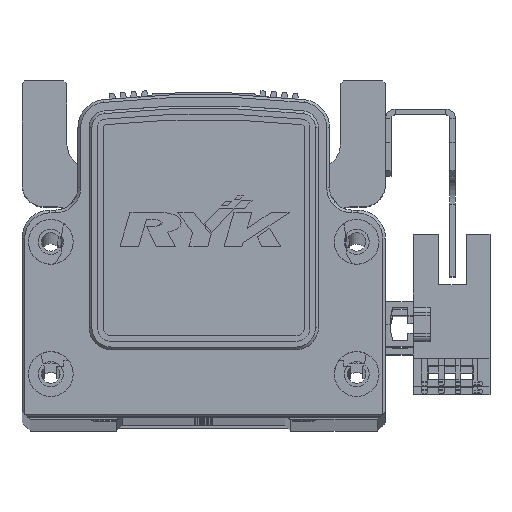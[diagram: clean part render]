
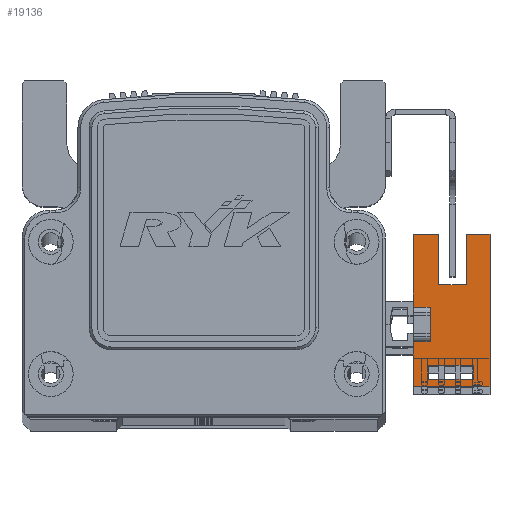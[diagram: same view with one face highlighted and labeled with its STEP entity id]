
A CAD part, top view. The second image highlights one B-rep face of the part: STEP entity #19136.
In plain terms, the highlighted planar face has unit normal (0, 0, 1) as drawn and (1, 0, 0) by its records, which use the part's own axes.
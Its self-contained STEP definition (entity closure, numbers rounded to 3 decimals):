
#1435 = ORIENTED_EDGE ( 'NONE', *, *, #11914, .F. ) ;
#1544 = FACE_OUTER_BOUND ( 'NONE', #20921, .T. ) ;
#1616 = FACE_BOUND ( 'NONE', #20941, .T. ) ;
#3279 = PLANE ( 'NONE',  #26310 ) ;
#3297 = DIRECTION ( 'NONE',  ( 0., 1., 0. ) ) ;
#3307 = CARTESIAN_POINT ( 'NONE',  ( 3.2, 16.1, -10.7 ) ) ;
#3317 = DIRECTION ( 'NONE',  ( 1., 0., 0. ) ) ;
#11870 = EDGE_CURVE ( 'NONE', #15748, #15707, #27808, .T. ) ;
#11875 = EDGE_CURVE ( 'NONE', #15727, #15717, #27785, .T. ) ;
#11878 = EDGE_CURVE ( 'NONE', #15709, #15714, #27820, .T. ) ;
#11913 = EDGE_CURVE ( 'NONE', #15874, #15748, #27724, .T. ) ;
#11914 = EDGE_CURVE ( 'NONE', #15815, #15801, #27067, .T. ) ;
#11916 = EDGE_CURVE ( 'NONE', #15707, #15780, #27281, .T. ) ;
#11920 = EDGE_CURVE ( 'NONE', #15771, #15787, #29962, .T. ) ;
#11930 = EDGE_CURVE ( 'NONE', #15801, #15771, #29954, .T. ) ;
#11933 = EDGE_CURVE ( 'NONE', #15714, #15813, #29992, .T. ) ;
#11934 = EDGE_CURVE ( 'NONE', #15763, #15717, #29990, .T. ) ;
#11947 = EDGE_CURVE ( 'NONE', #15787, #15815, #29945, .T. ) ;
#11948 = EDGE_CURVE ( 'NONE', #15790, #15763, #29969, .T. ) ;
#12010 = EDGE_CURVE ( 'NONE', #15813, #15769, #30107, .T. ) ;
#12013 = EDGE_CURVE ( 'NONE', #15874, #15709, #30088, .T. ) ;
#12018 = EDGE_CURVE ( 'NONE', #15769, #15727, #30117, .T. ) ;
#12023 = EDGE_CURVE ( 'NONE', #15780, #15790, #30190, .T. ) ;
#15707 = VERTEX_POINT ( 'NONE', #39078 ) ;
#15709 = VERTEX_POINT ( 'NONE', #39036 ) ;
#15714 = VERTEX_POINT ( 'NONE', #39075 ) ;
#15717 = VERTEX_POINT ( 'NONE', #39037 ) ;
#15727 = VERTEX_POINT ( 'NONE', #39042 ) ;
#15748 = VERTEX_POINT ( 'NONE', #39063 ) ;
#15763 = VERTEX_POINT ( 'NONE', #39201 ) ;
#15769 = VERTEX_POINT ( 'NONE', #39183 ) ;
#15771 = VERTEX_POINT ( 'NONE', #39139 ) ;
#15780 = VERTEX_POINT ( 'NONE', #39170 ) ;
#15787 = VERTEX_POINT ( 'NONE', #39150 ) ;
#15790 = VERTEX_POINT ( 'NONE', #39204 ) ;
#15801 = VERTEX_POINT ( 'NONE', #39181 ) ;
#15813 = VERTEX_POINT ( 'NONE', #39177 ) ;
#15815 = VERTEX_POINT ( 'NONE', #39156 ) ;
#15874 = VERTEX_POINT ( 'NONE', #39213 ) ;
#19136 = ADVANCED_FACE ( 'NONE', ( #1544, #1616 ), #3279, .T. ) ;
#20921 = EDGE_LOOP ( 'NONE', ( #44493, #44475, #44468, #44481, #44655, #44523, #44542, #44551, #44547, #44549, #44454, #44545 ) ) ;
#20941 = EDGE_LOOP ( 'NONE', ( #44452, #44463, #44502, #1435 ) ) ;
#26310 = AXIS2_PLACEMENT_3D ( 'NONE', #3307, #3317, #3297 ) ;
#27067 = LINE ( 'NONE', #29820, #27573 ) ;
#27281 = LINE ( 'NONE', #29841, #29988 ) ;
#27573 = VECTOR ( 'NONE', #29843, 1000. ) ;
#27724 = LINE ( 'NONE', #29817, #27758 ) ;
#27758 = VECTOR ( 'NONE', #29846, 1000. ) ;
#27773 = VECTOR ( 'NONE', #29741, 1000. ) ;
#27779 = VECTOR ( 'NONE', #29724, 1000. ) ;
#27785 = LINE ( 'NONE', #29746, #27773 ) ;
#27788 = VECTOR ( 'NONE', #29755, 1000. ) ;
#27808 = LINE ( 'NONE', #29744, #27779 ) ;
#27820 = LINE ( 'NONE', #29752, #27788 ) ;
#29724 = DIRECTION ( 'NONE',  ( 0., 0., 1. ) ) ;
#29741 = DIRECTION ( 'NONE',  ( 0., 1., 0. ) ) ;
#29744 = CARTESIAN_POINT ( 'NONE',  ( 3.2, 16.1, -10.7 ) ) ;
#29746 = CARTESIAN_POINT ( 'NONE',  ( 3.2, 16.1, 3. ) ) ;
#29752 = CARTESIAN_POINT ( 'NONE',  ( 3.2, 16.1, 3. ) ) ;
#29755 = DIRECTION ( 'NONE',  ( 0., 1., 0. ) ) ;
#29817 = CARTESIAN_POINT ( 'NONE',  ( 3.2, 16.1, -10.7 ) ) ;
#29820 = CARTESIAN_POINT ( 'NONE',  ( 3.2, -9.83, -10.7 ) ) ;
#29824 = CARTESIAN_POINT ( 'NONE',  ( 3.2, -7.33, -10.7 ) ) ;
#29832 = DIRECTION ( 'NONE',  ( 0., -1., 0. ) ) ;
#29839 = DIRECTION ( 'NONE',  ( 0., 0., 1. ) ) ;
#29841 = CARTESIAN_POINT ( 'NONE',  ( 3.2, 25.1, -6.5 ) ) ;
#29843 = DIRECTION ( 'NONE',  ( 0., 0., -1. ) ) ;
#29846 = DIRECTION ( 'NONE',  ( 0., 1., 0. ) ) ;
#29848 = CARTESIAN_POINT ( 'NONE',  ( 3.2, 16.1, -7.7 ) ) ;
#29849 = DIRECTION ( 'NONE',  ( 0., 0., 1. ) ) ;
#29863 = DIRECTION ( 'NONE',  ( 0., 0., -1. ) ) ;
#29865 = CARTESIAN_POINT ( 'NONE',  ( 3.2, 16.1, -10.7 ) ) ;
#29869 = CARTESIAN_POINT ( 'NONE',  ( 3.2, -3.1, 3. ) ) ;
#29873 = DIRECTION ( 'NONE',  ( 0., 1., 0. ) ) ;
#29897 = CARTESIAN_POINT ( 'NONE',  ( 3.2, 16.1, 0.3 ) ) ;
#29905 = DIRECTION ( 'NONE',  ( 0., -1., 0. ) ) ;
#29907 = DIRECTION ( 'NONE',  ( 0., 1., 0. ) ) ;
#29915 = CARTESIAN_POINT ( 'NONE',  ( 3.2, 25.1, -1.5 ) ) ;
#29943 = VECTOR ( 'NONE', #29907, 1000. ) ;
#29945 = LINE ( 'NONE', #29897, #29989 ) ;
#29946 = VECTOR ( 'NONE', #29849, 1000. ) ;
#29954 = LINE ( 'NONE', #29848, #29972 ) ;
#29962 = LINE ( 'NONE', #29824, #29980 ) ;
#29969 = LINE ( 'NONE', #29915, #29943 ) ;
#29972 = VECTOR ( 'NONE', #29873, 1000. ) ;
#29973 = VECTOR ( 'NONE', #29863, 1000. ) ;
#29980 = VECTOR ( 'NONE', #29839, 1000. ) ;
#29988 = VECTOR ( 'NONE', #29832, 1000. ) ;
#29989 = VECTOR ( 'NONE', #29905, 1000. ) ;
#29990 = LINE ( 'NONE', #29865, #29946 ) ;
#29992 = LINE ( 'NONE', #29869, #29973 ) ;
#30088 = LINE ( 'NONE', #31269, #30116 ) ;
#30107 = LINE ( 'NONE', #31281, #30122 ) ;
#30116 = VECTOR ( 'NONE', #31270, 1000. ) ;
#30117 = LINE ( 'NONE', #31286, #30123 ) ;
#30122 = VECTOR ( 'NONE', #31273, 1000. ) ;
#30123 = VECTOR ( 'NONE', #31272, 1000. ) ;
#30190 = LINE ( 'NONE', #31333, #30194 ) ;
#30194 = VECTOR ( 'NONE', #31319, 1000. ) ;
#31269 = CARTESIAN_POINT ( 'NONE',  ( 3.2, -11.1, 3. ) ) ;
#31270 = DIRECTION ( 'NONE',  ( 0., 0., 1. ) ) ;
#31272 = DIRECTION ( 'NONE',  ( 0., 0., 1. ) ) ;
#31273 = DIRECTION ( 'NONE',  ( 0., 1., 0. ) ) ;
#31281 = CARTESIAN_POINT ( 'NONE',  ( 3.2, 0., 0. ) ) ;
#31286 = CARTESIAN_POINT ( 'NONE',  ( 3.2, 3.1, 3. ) ) ;
#31319 = DIRECTION ( 'NONE',  ( 0., 0., 1. ) ) ;
#31333 = CARTESIAN_POINT ( 'NONE',  ( 3.2, 7.1, -6.5 ) ) ;
#39036 = CARTESIAN_POINT ( 'NONE',  ( 3.2, -11.1, 3. ) ) ;
#39037 = CARTESIAN_POINT ( 'NONE',  ( 3.2, 16.1, 3. ) ) ;
#39042 = CARTESIAN_POINT ( 'NONE',  ( 3.2, 3.1, 3. ) ) ;
#39063 = CARTESIAN_POINT ( 'NONE',  ( 3.2, 16.1, -10.7 ) ) ;
#39075 = CARTESIAN_POINT ( 'NONE',  ( 3.2, -3.1, 3. ) ) ;
#39078 = CARTESIAN_POINT ( 'NONE',  ( 3.2, 16.1, -6.5 ) ) ;
#39139 = CARTESIAN_POINT ( 'NONE',  ( 3.2, -7.33, -7.7 ) ) ;
#39150 = CARTESIAN_POINT ( 'NONE',  ( 3.2, -7.33, 0.3 ) ) ;
#39156 = CARTESIAN_POINT ( 'NONE',  ( 3.2, -9.83, 0.3 ) ) ;
#39170 = CARTESIAN_POINT ( 'NONE',  ( 3.2, 7.1, -6.5 ) ) ;
#39177 = CARTESIAN_POINT ( 'NONE',  ( 3.2, -3.1, 0. ) ) ;
#39181 = CARTESIAN_POINT ( 'NONE',  ( 3.2, -9.83, -7.7 ) ) ;
#39183 = CARTESIAN_POINT ( 'NONE',  ( 3.2, 3.1, 0. ) ) ;
#39201 = CARTESIAN_POINT ( 'NONE',  ( 3.2, 16.1, -1.5 ) ) ;
#39204 = CARTESIAN_POINT ( 'NONE',  ( 3.2, 7.1, -1.5 ) ) ;
#39213 = CARTESIAN_POINT ( 'NONE',  ( 3.2, -11.1, -10.7 ) ) ;
#44452 = ORIENTED_EDGE ( 'NONE', *, *, #11947, .F. ) ;
#44454 = ORIENTED_EDGE ( 'NONE', *, *, #11913, .T. ) ;
#44463 = ORIENTED_EDGE ( 'NONE', *, *, #11920, .F. ) ;
#44468 = ORIENTED_EDGE ( 'NONE', *, *, #11948, .T. ) ;
#44475 = ORIENTED_EDGE ( 'NONE', *, *, #12023, .T. ) ;
#44481 = ORIENTED_EDGE ( 'NONE', *, *, #11934, .T. ) ;
#44493 = ORIENTED_EDGE ( 'NONE', *, *, #11916, .T. ) ;
#44502 = ORIENTED_EDGE ( 'NONE', *, *, #11930, .F. ) ;
#44523 = ORIENTED_EDGE ( 'NONE', *, *, #12018, .F. ) ;
#44542 = ORIENTED_EDGE ( 'NONE', *, *, #12010, .F. ) ;
#44545 = ORIENTED_EDGE ( 'NONE', *, *, #11870, .T. ) ;
#44547 = ORIENTED_EDGE ( 'NONE', *, *, #11878, .F. ) ;
#44549 = ORIENTED_EDGE ( 'NONE', *, *, #12013, .F. ) ;
#44551 = ORIENTED_EDGE ( 'NONE', *, *, #11933, .F. ) ;
#44655 = ORIENTED_EDGE ( 'NONE', *, *, #11875, .F. ) ;
